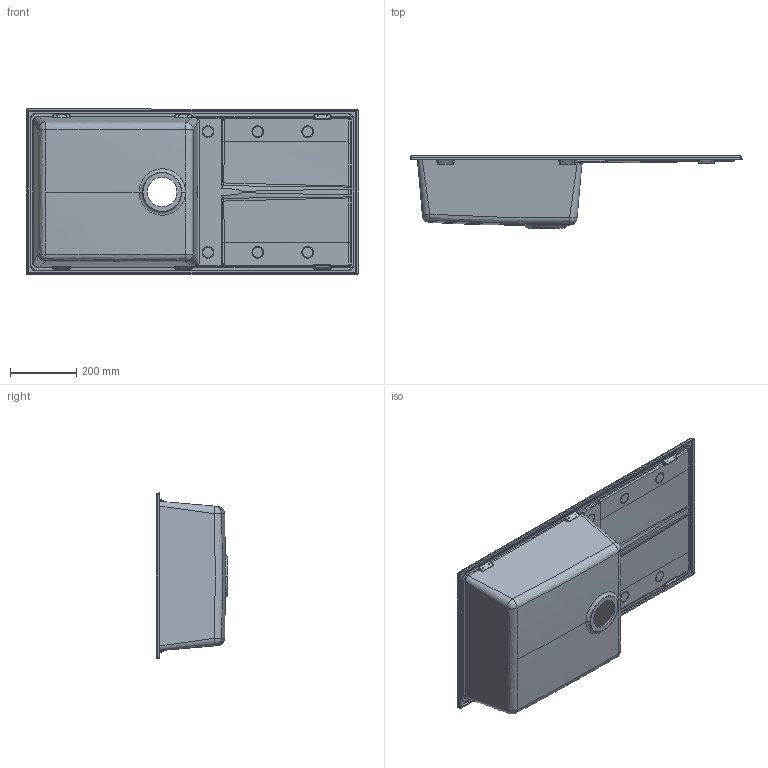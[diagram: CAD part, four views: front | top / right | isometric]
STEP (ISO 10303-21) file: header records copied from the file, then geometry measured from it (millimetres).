
FILE_DESCRIPTION (( 'STEP AP203' ), '1' );
FILE_NAME ('UNICO480.STEP', '2020-06-03T15:19:25', ( 'utente1' ), ( '' ), 'SwSTEP 2.0', 'SolidWorks 2013', '' );
FILE_SCHEMA (( 'CONFIG_CONTROL_DESIGN' ));
Length unit declared in the file: millimetre
Products named in the file (1): UNICO480
Bounding box: 1000 x 216.49 x 500 mm (x, y, z)
Volume: 6558252.4 mm3; surface area: 1631770.3 mm2
Topology: 1 solids, 1 shells, 494 faces, 1170 edges, 680 vertices
Faces by surface type: bspline 192, cylinder 187, plane 77, torus 22, sphere 12, cone 4
Entity records: 24952 total; most frequent: CARTESIAN_POINT 15303, ORIENTED_EDGE 2280, DIRECTION 1676, EDGE_CURVE 1140, AXIS2_PLACEMENT_3D 679, VERTEX_POINT 676, EDGE_LOOP 526, FACE_OUTER_BOUND 494
